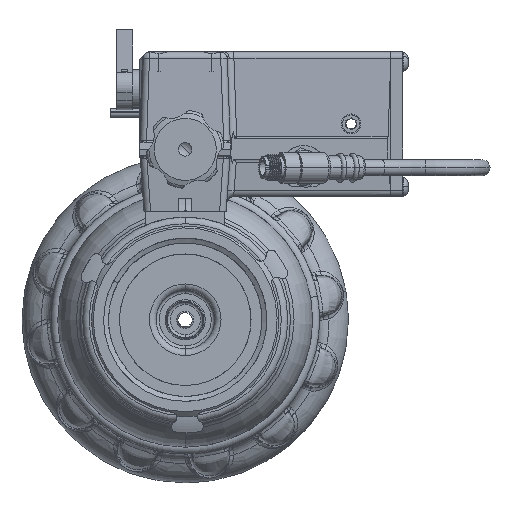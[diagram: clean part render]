
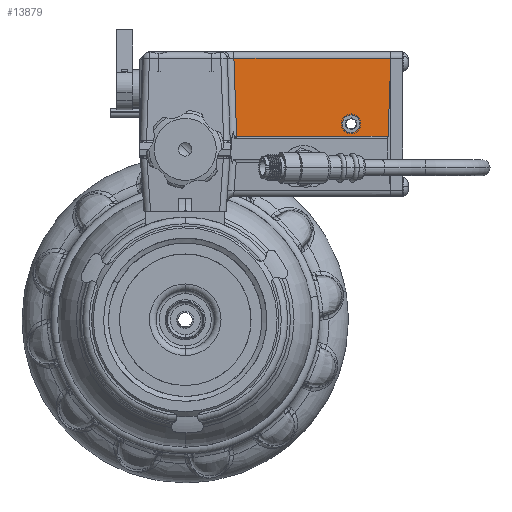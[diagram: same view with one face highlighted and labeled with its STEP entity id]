
A CAD part, left-side view. The second image highlights one B-rep face of the part: STEP entity #13879.
In plain terms, the highlighted planar face has unit normal (-0.999, 0, 0.035).
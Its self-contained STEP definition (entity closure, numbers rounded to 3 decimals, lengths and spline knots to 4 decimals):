
#276 = CARTESIAN_POINT ( 'NONE',  ( -2.9068, -3.9, 4.9644 ) ) ;
#279 = CARTESIAN_POINT ( 'NONE',  ( -2.9105, -3.9, 4.8578 ) ) ;
#280 = CARTESIAN_POINT ( 'NONE',  ( -2.9586, -3.8519, 3.4806 ) ) ;
#297 = CARTESIAN_POINT ( 'NONE',  ( -2.9586, -0.9764, 3.4806 ) ) ;
#330 = CARTESIAN_POINT ( 'NONE',  ( -2.9443, -3.15, 3.8885 ) ) ;
#331 = CARTESIAN_POINT ( 'NONE',  ( -2.9561, -3.15, 3.5515 ) ) ;
#382 = CARTESIAN_POINT ( 'NONE',  ( -2.9068, -0.9246, 4.9644 ) ) ;
#3418 = AXIS2_PLACEMENT_3D ( 'NONE', #34299, #34307, #34308 ) ;
#6335 = VERTEX_POINT ( 'NONE', #276 ) ;
#6338 = VERTEX_POINT ( 'NONE', #279 ) ;
#6339 = VERTEX_POINT ( 'NONE', #280 ) ;
#6356 = VERTEX_POINT ( 'NONE', #297 ) ;
#6389 = VERTEX_POINT ( 'NONE', #330 ) ;
#6390 = VERTEX_POINT ( 'NONE', #331 ) ;
#6441 = VERTEX_POINT ( 'NONE', #382 ) ;
#13879 = ADVANCED_FACE ( 'NONE', ( #60165, #60172 ), #34305, .T. ) ;
#18998 = EDGE_CURVE ( 'NONE', #6390, #6389, #20572, .T. ) ;
#19101 = EDGE_CURVE ( 'NONE', #6389, #6390, #20606, .T. ) ;
#19125 = EDGE_CURVE ( 'NONE', #6441, #6356, #56778, .T. ) ;
#19184 = EDGE_CURVE ( 'NONE', #6339, #6338, #56818, .T. ) ;
#19238 = EDGE_CURVE ( 'NONE', #6356, #6339, #56851, .T. ) ;
#19241 = EDGE_CURVE ( 'NONE', #6338, #6335, #56862, .T. ) ;
#19244 = EDGE_CURVE ( 'NONE', #6335, #6441, #56866, .T. ) ;
#20572 =( BOUNDED_CURVE ( )  B_SPLINE_CURVE ( 3, ( #58993, #58991, #59003, #59005 ),
 .UNSPECIFIED., .F., .F. ) 
 B_SPLINE_CURVE_WITH_KNOTS ( ( 4, 4 ),
 ( 0., 3.1416 ),
 .UNSPECIFIED. ) 
 CURVE ( )  GEOMETRIC_REPRESENTATION_ITEM ( )  RATIONAL_B_SPLINE_CURVE ( ( 1., 0.333, 0.333, 1. ) ) 
 REPRESENTATION_ITEM ( '' )  );
#20606 =( BOUNDED_CURVE ( )  B_SPLINE_CURVE ( 3, ( #59581, #59597, #59606, #59608 ),
 .UNSPECIFIED., .F., .F. ) 
 B_SPLINE_CURVE_WITH_KNOTS ( ( 4, 4 ),
 ( 3.1416, 6.2832 ),
 .UNSPECIFIED. ) 
 CURVE ( )  GEOMETRIC_REPRESENTATION_ITEM ( )  RATIONAL_B_SPLINE_CURVE ( ( 1., 0.333, 0.333, 1. ) ) 
 REPRESENTATION_ITEM ( '' )  );
#34299 = CARTESIAN_POINT ( 'NONE',  ( -2.9672, -3.9951, 3.235 ) ) ;
#34305 = PLANE ( 'NONE',  #3418 ) ;
#34307 = DIRECTION ( 'NONE',  ( -0.999, 0., 0.035 ) ) ;
#34308 = DIRECTION ( 'NONE',  ( 0.035, 0., 0.999 ) ) ;
#49308 = ORIENTED_EDGE ( 'NONE', *, *, #19238, .T. ) ;
#49309 = ORIENTED_EDGE ( 'NONE', *, *, #19184, .T. ) ;
#49310 = ORIENTED_EDGE ( 'NONE', *, *, #19241, .T. ) ;
#49311 = ORIENTED_EDGE ( 'NONE', *, *, #19244, .T. ) ;
#49312 = ORIENTED_EDGE ( 'NONE', *, *, #19125, .T. ) ;
#49313 = ORIENTED_EDGE ( 'NONE', *, *, #19101, .F. ) ;
#49314 = ORIENTED_EDGE ( 'NONE', *, *, #18998, .F. ) ;
#56778 = LINE ( 'NONE', #59700, #56780 ) ;
#56780 = VECTOR ( 'NONE', #59704, 39.3701 ) ;
#56818 = LINE ( 'NONE', #60069, #56821 ) ;
#56821 = VECTOR ( 'NONE', #60071, 39.3701 ) ;
#56851 = LINE ( 'NONE', #60448, #56861 ) ;
#56861 = VECTOR ( 'NONE', #60459, 39.3701 ) ;
#56862 = LINE ( 'NONE', #60473, #56865 ) ;
#56865 = VECTOR ( 'NONE', #60478, 39.3701 ) ;
#56866 = LINE ( 'NONE', #60526, #56867 ) ;
#56867 = VECTOR ( 'NONE', #60530, 39.3701 ) ;
#58991 = CARTESIAN_POINT ( 'NONE',  ( -2.9561, -3.487, 3.5515 ) ) ;
#58993 = CARTESIAN_POINT ( 'NONE',  ( -2.9561, -3.15, 3.5515 ) ) ;
#59003 = CARTESIAN_POINT ( 'NONE',  ( -2.9443, -3.487, 3.8885 ) ) ;
#59005 = CARTESIAN_POINT ( 'NONE',  ( -2.9443, -3.15, 3.8885 ) ) ;
#59581 = CARTESIAN_POINT ( 'NONE',  ( -2.9443, -3.15, 3.8885 ) ) ;
#59597 = CARTESIAN_POINT ( 'NONE',  ( -2.9443, -2.813, 3.8885 ) ) ;
#59606 = CARTESIAN_POINT ( 'NONE',  ( -2.9561, -2.813, 3.5515 ) ) ;
#59608 = CARTESIAN_POINT ( 'NONE',  ( -2.9561, -3.15, 3.5515 ) ) ;
#59700 = CARTESIAN_POINT ( 'NONE',  ( -2.967, -0.9848, 3.2394 ) ) ;
#59704 = DIRECTION ( 'NONE',  ( -0.035, -0.035, -0.999 ) ) ;
#60069 = CARTESIAN_POINT ( 'NONE',  ( -2.967, -3.8435, 3.2403 ) ) ;
#60071 = DIRECTION ( 'NONE',  ( 0.035, -0.035, 0.999 ) ) ;
#60165 = FACE_OUTER_BOUND ( 'NONE', #66317, .T. ) ;
#60172 = FACE_BOUND ( 'NONE', #66330, .T. ) ;
#60448 = CARTESIAN_POINT ( 'NONE',  ( -2.9586, -3.9951, 3.4806 ) ) ;
#60459 = DIRECTION ( 'NONE',  ( 0., -1., 0. ) ) ;
#60473 = CARTESIAN_POINT ( 'NONE',  ( -2.9672, -3.9, 3.235 ) ) ;
#60478 = DIRECTION ( 'NONE',  ( 0.035, 0., 0.999 ) ) ;
#60526 = CARTESIAN_POINT ( 'NONE',  ( -2.9068, -0.7955, 4.9644 ) ) ;
#60530 = DIRECTION ( 'NONE',  ( 0., 1., 0. ) ) ;
#66317 = EDGE_LOOP ( 'NONE', ( #49308, #49309, #49310, #49311, #49312 ) ) ;
#66330 = EDGE_LOOP ( 'NONE', ( #49313, #49314 ) ) ;
